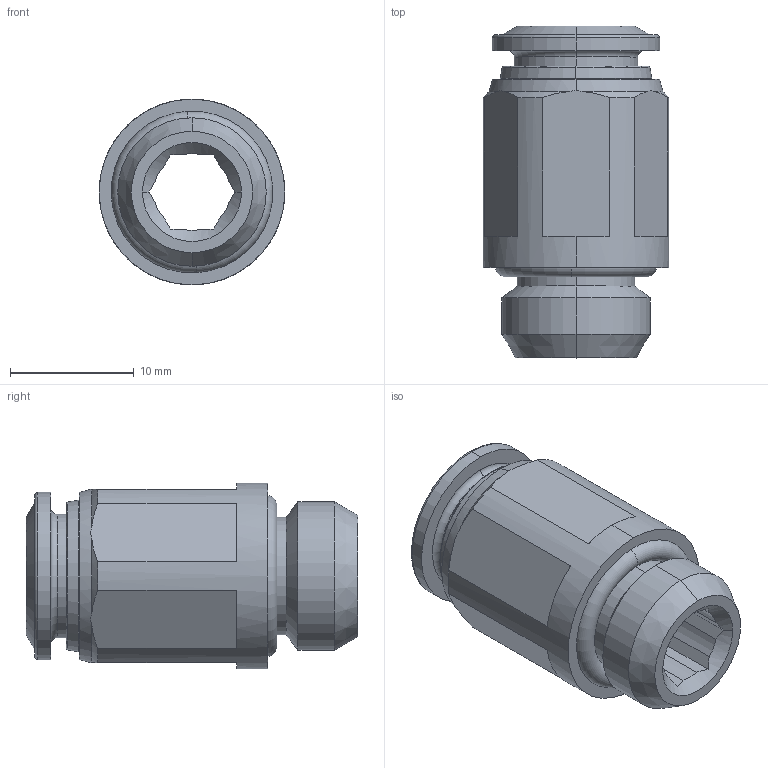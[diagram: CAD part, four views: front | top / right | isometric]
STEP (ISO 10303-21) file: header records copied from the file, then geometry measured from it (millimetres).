
FILE_DESCRIPTION (( 'STEP AP214' ), '1' );
FILE_NAME ('5702000017.STEP', '2024-10-18T09:04:15', ( '' ), ( '' ), 'SwSTEP 2.0', 'SolidWorks 2020', '' );
FILE_SCHEMA (( 'AUTOMOTIVE_DESIGN' ));
Length unit declared in the file: millimetre
Products named in the file (1): 5702000017
Bounding box: 15 x 26.8 x 15 mm (x, y, z)
Volume: 2518.3 mm3; surface area: 2167.4 mm2
Topology: 1 solids, 1 shells, 82 faces, 202 edges, 128 vertices
Faces by surface type: plane 32, cone 24, cylinder 18, torus 8
Entity records: 3435 total; most frequent: CARTESIAN_POINT 569, DIRECTION 416, ORIENTED_EDGE 404, EDGE_CURVE 202, AXIS2_PLACEMENT_3D 175, VERTEX_POINT 128, CIRCLE 92, EDGE_LOOP 90
